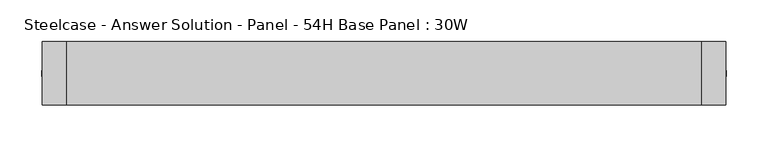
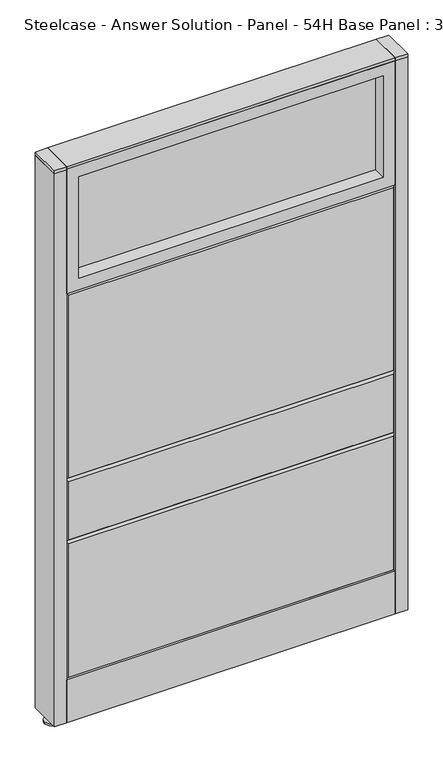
"""IFC4 building model written with IfcOpenShell, lengths in millimetres: furniture geometry, Steelcase - Answer Solution - Panel - 54H Base Panel : 30W."""

from ifc_helpers import new_model, si_unit, point, frame, frame_2d, origin, place, context, project, spatial, polyline, circle_curve, trimmed, segment, composite_curve, outline, extrude, faceted_brep, source, transform, mapped, element, save


def steelcase_answer_solution_panel_54h_base_panel_30w_ec267884(model_context):
    return source(origin(), model_context, "Body", "SolidModel", [
        extrude(outline(composite_curve([segment(trimmed(circle_curve(frame_2d((395.224, 0.0320214)), 5.08), [point((400.304, 0.0320214))], [point((390.144, 0.0320214))], False, "CARTESIAN"), True, "CONTINUOUS"), segment(trimmed(circle_curve(frame_2d((395.224, 0.0320214)), 5.08), [point((390.144, 0.0320214))], [point((400.304, 0.0320214))], False, "CARTESIAN"), True, "CONTINUOUS")], self_intersect=False)), frame((0.0, 0.0, 5.0799671), z_axis=(0.0, 0.0, 1.0), x_axis=(1.0, 0.0, 0.0)), (0.0, 0.0, 1.0), 10.414),
        extrude(outline(composite_curve([segment(trimmed(circle_curve(frame_2d((395.224, 0.0320214)), 15.24), [point((410.464, 0.0320214))], [point((379.984, 0.0320214))], False, "CARTESIAN"), True, "CONTINUOUS"), segment(trimmed(circle_curve(frame_2d((395.224, 0.0320214)), 15.24), [point((379.984, 0.0320214))], [point((410.464, 0.0320214))], False, "CARTESIAN"), True, "CONTINUOUS")], self_intersect=False)), frame((0.0, 0.0, -3.29e-05), z_axis=(0.0, 0.0, 1.0), x_axis=(1.0, 0.0, 0.0)), (0.0, 0.0, 1.0), 5.08),
        extrude(outline(polyline([(409.575, 38.1320408), (409.575, -38.0679592), (381.0, -38.0679592), (381.0, 38.1320408), (409.575, 38.1320408)])), frame((0.0, 0.0, 1370.6348), z_axis=(0.0, 0.0, 1.0), x_axis=(1.0, 0.0, 0.0)), (0.0, 0.0, 1.0), 7.3151671),
        extrude(outline(polyline([(409.575, 38.1320408), (409.575, -38.0679592), (381.0, -38.0679592), (381.0, 38.1320408), (409.575, 38.1320408)])), frame((0.0, 0.0, 15.4939671), z_axis=(0.0, 0.0, 1.0), x_axis=(1.0, 0.0, 0.0)), (0.0, 0.0, 1.0), 1355.1408329),
        extrude(outline(composite_curve([segment(trimmed(circle_curve(frame_2d((-395.224, 0.0320214)), 5.08), [point((-400.304, 0.0320214))], [point((-390.144, 0.0320214))], False, "CARTESIAN"), True, "CONTINUOUS"), segment(trimmed(circle_curve(frame_2d((-395.224, 0.0320214)), 5.08), [point((-390.144, 0.0320214))], [point((-400.304, 0.0320214))], False, "CARTESIAN"), True, "CONTINUOUS")], self_intersect=False)), frame((0.0, 0.0, 5.0799671), z_axis=(0.0, 0.0, 1.0), x_axis=(1.0, 0.0, 0.0)), (0.0, 0.0, 1.0), 10.414),
        extrude(outline(composite_curve([segment(trimmed(circle_curve(frame_2d((-395.224, 0.0320214)), 15.24), [point((-410.464, 0.0320214))], [point((-379.984, 0.0320214))], False, "CARTESIAN"), True, "CONTINUOUS"), segment(trimmed(circle_curve(frame_2d((-395.224, 0.0320214)), 15.24), [point((-379.984, 0.0320214))], [point((-410.464, 0.0320214))], False, "CARTESIAN"), True, "CONTINUOUS")], self_intersect=False)), frame((0.0, 0.0, -3.29e-05), z_axis=(0.0, 0.0, 1.0), x_axis=(1.0, 0.0, 0.0)), (0.0, 0.0, 1.0), 5.08),
        extrude(outline(polyline([(-409.575, 38.1320408), (-381.0, 38.1320408), (-381.0, -38.0679592), (-409.575, -38.0679592), (-409.575, 38.1320408)])), frame((0.0, 0.0, 1370.6348), z_axis=(0.0, 0.0, 1.0), x_axis=(1.0, 0.0, 0.0)), (0.0, 0.0, 1.0), 7.3151671),
        extrude(outline(polyline([(-409.575, 38.1320408), (-381.0, 38.1320408), (-381.0, -38.0679592), (-409.575, -38.0679592), (-409.575, 38.1320408)])), frame((0.0, 0.0, 15.4939671), z_axis=(0.0, 0.0, 1.0), x_axis=(1.0, 0.0, 0.0)), (0.0, 0.0, 1.0), 1355.1408329),
        extrude(outline(polyline([(-353.06, 6.346049), (353.06, 6.346049), (353.06, -6.353951), (-353.06, -6.353951), (-353.06, 6.346049)])), frame((0.0, 0.0, 1094.74), z_axis=(0.0, 0.0, 1.0), x_axis=(1.0, 0.0, 0.0)), (0.0, 0.0, 1.0), 248.92),
        extrude(outline(polyline([(1371.6, -381.0), (1066.8, -381.0), (1066.8, 381.0), (1371.6, 381.0), (1371.6, -381.0)]), holes=[polyline([(1343.66, -353.06), (1343.66, 353.06), (1094.74, 353.06), (1094.74, -353.06), (1343.66, -353.06)])]), frame((0.0, -38.103951, 0.0), z_axis=(0.0, 1.0, 0.0), x_axis=(0.0, 0.0, 1.0)), (0.0, 0.0, 1.0), 76.2),
        faceted_brep([(-376.174, 38.1635011, 1061.974), (376.174, 38.1635011, 1061.974), (376.174, 38.1635011, 614.426), (-376.174, 38.1635011, 614.426), (-381.0, 33.3375011, 1066.8), (-381.0, 33.3375011, 609.6), (381.0, 33.3375011, 609.6), (381.0, 33.3375011, 1066.8)], [[[0, 1, 2, 3]], [[4, 5, 6, 7]], [[4, 7, 1, 0]], [[7, 6, 2, 1]], [[6, 5, 3, 2]], [[5, 4, 0, 3]]]),
        faceted_brep([(-376.174, 38.1635011, 604.774), (376.174, 38.1635011, 604.774), (376.174, 38.1635011, 462.026), (-376.174, 38.1635011, 462.026), (-381.0, 33.3375011, 609.6), (-381.0, 33.3375011, 457.2), (381.0, 33.3375011, 457.2), (381.0, 33.3375011, 609.6)], [[[0, 1, 2, 3]], [[4, 5, 6, 7]], [[4, 7, 1, 0]], [[7, 6, 2, 1]], [[6, 5, 3, 2]], [[5, 4, 0, 3]]]),
        faceted_brep([(-376.174, 38.1635011, 452.374), (376.174, 38.1635011, 452.374), (376.174, 38.1635011, 125.476), (-376.174, 38.1635011, 125.476), (-381.0, 33.3375011, 457.2), (-381.0, 33.3375011, 120.65), (381.0, 33.3375011, 120.65), (381.0, 33.3375011, 457.2)], [[[0, 1, 2, 3]], [[4, 5, 6, 7]], [[4, 7, 1, 0]], [[7, 6, 2, 1]], [[6, 5, 3, 2]], [[5, 4, 0, 3]]]),
        extrude(outline(polyline([(353.06, -6.346049), (-353.06, -6.346049), (-353.06, 6.353951), (353.06, 6.353951), (353.06, -6.346049)])), frame((0.0, 0.0, 1094.74), z_axis=(0.0, 0.0, 1.0), x_axis=(1.0, 0.0, 0.0)), (0.0, 0.0, 1.0), 248.92),
        extrude(outline(polyline([(1371.6, 381.0), (1371.6, -381.0), (1066.8, -381.0), (1066.8, 381.0), (1371.6, 381.0)]), holes=[polyline([(1343.66, 353.06), (1094.74, 353.06), (1094.74, -353.06), (1343.66, -353.06), (1343.66, 353.06)])]), frame((0.0, -38.096049, 0.0), z_axis=(0.0, 1.0, 0.0), x_axis=(0.0, 0.0, 1.0)), (0.0, 0.0, 1.0), 76.2),
        faceted_brep([(376.174, -38.1635011, 1061.974), (-376.174, -38.1635011, 1061.974), (-376.174, -38.1635011, 614.426), (376.174, -38.1635011, 614.426), (381.0, -33.3375011, 1066.8), (381.0, -33.3375011, 609.6), (-381.0, -33.3375011, 609.6), (-381.0, -33.3375011, 1066.8)], [[[0, 1, 2, 3]], [[4, 5, 6, 7]], [[4, 7, 1, 0]], [[7, 6, 2, 1]], [[6, 5, 3, 2]], [[5, 4, 0, 3]]]),
        faceted_brep([(376.174, -38.1635011, 604.774), (-376.174, -38.1635011, 604.774), (-376.174, -38.1635011, 462.026), (376.174, -38.1635011, 462.026), (381.0, -33.3375011, 609.6), (381.0, -33.3375011, 457.2), (-381.0, -33.3375011, 457.2), (-381.0, -33.3375011, 609.6)], [[[0, 1, 2, 3]], [[4, 5, 6, 7]], [[4, 7, 1, 0]], [[7, 6, 2, 1]], [[6, 5, 3, 2]], [[5, 4, 0, 3]]]),
        faceted_brep([(376.174, -38.1635011, 452.374), (-376.174, -38.1635011, 452.374), (-376.174, -38.1635011, 125.476), (376.174, -38.1635011, 125.476), (381.0, -33.3375011, 457.2), (381.0, -33.3375011, 120.65), (-381.0, -33.3375011, 120.65), (-381.0, -33.3375011, 457.2)], [[[0, 1, 2, 3]], [[4, 5, 6, 7]], [[4, 7, 1, 0]], [[7, 6, 2, 1]], [[6, 5, 3, 2]], [[5, 4, 0, 3]]]),
        extrude(outline(polyline([(381.0, 38.1000194), (381.0, -38.1000194), (-381.0, -38.1000194), (-381.0, 38.1000194), (381.0, 38.1000194)])), frame((0.0, 0.0, 1371.6), z_axis=(0.0, 0.0, 1.0), x_axis=(1.0, 0.0, 0.0)), (0.0, 0.0, 1.0), 6.35),
        extrude(outline(polyline([(25.4000011, 119.8575157), (25.4000011, 120.65), (38.1000194, 120.65), (38.1000194, 15.494), (37.3075215, 15.494), (37.3075215, 119.8575157), (25.4000011, 119.8575157)])), frame((-381.0, 0.0, 0.0), z_axis=(1.0, 0.0, 0.0), x_axis=(0.0, 1.0, 0.0)), (0.0, 0.0, 1.0), 762.0),
        extrude(outline(polyline([(-25.4000011, 119.8575157), (-37.3075215, 119.8575157), (-37.3075215, 15.494), (-38.1000194, 15.494), (-38.1000194, 120.65), (-25.4000011, 120.65), (-25.4000011, 119.8575157)])), frame((-381.0, 0.0, 0.0), z_axis=(1.0, 0.0, 0.0), x_axis=(0.0, 1.0, 0.0)), (0.0, 0.0, 1.0), 762.0),
    ])


if __name__ == "__main__":
    model = new_model("IFC4")
    model_context = context("Model", 3, world=origin())
    ifc_project = project(units=[si_unit("LENGTHUNIT", "METRE", prefix="MILLI")], contexts=[model_context])
    site = spatial("IfcSite", under=ifc_project)
    building = spatial("IfcBuilding", under=site)
    placement = place(None, origin())
    steelcase_answer_solution_panel_54h_base_panel_30w_shape = steelcase_answer_solution_panel_54h_base_panel_30w_ec267884(model_context)
    element("IfcFurniture", 1, ObjectType="Steelcase - Answer Solution - Panel - 54H Base Panel : 30W", at=placement, inside=building, context=model_context, shape_type="MappedRepresentation", body=[
        mapped(steelcase_answer_solution_panel_54h_base_panel_30w_shape, transform((0.0, 0.0, 0.0), x_axis=(1.0, 0.0, 0.0), y_axis=(0.0, 1.0, 0.0), z_axis=(0.0, 0.0, 1.0))),
    ])
    save(model, "model.ifc")
